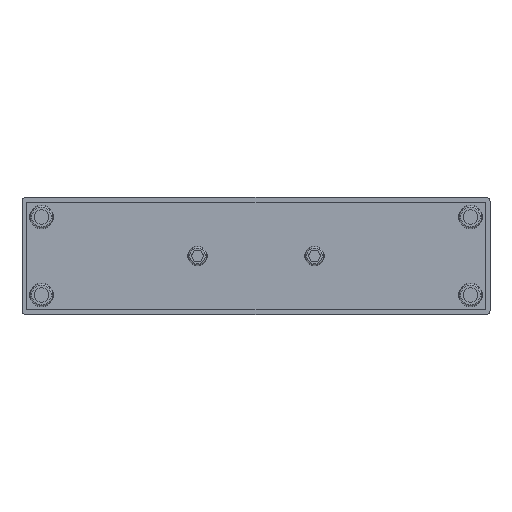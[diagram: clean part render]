
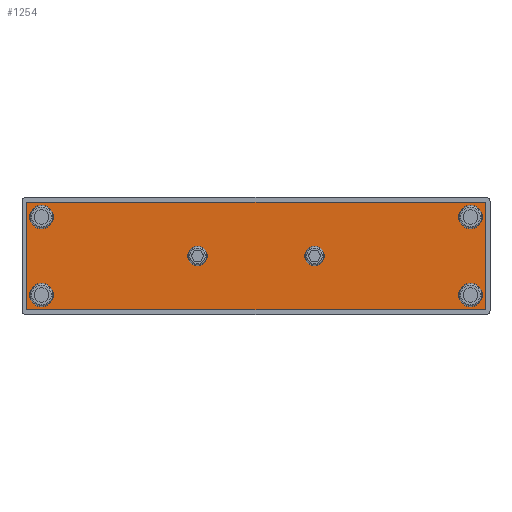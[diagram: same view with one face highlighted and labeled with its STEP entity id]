
A CAD part, top view. The second image highlights one B-rep face of the part: STEP entity #1254.
In plain terms, the highlighted planar face has unit normal (0, 0, 1).
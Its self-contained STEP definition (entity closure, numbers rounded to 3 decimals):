
#62 = EDGE_CURVE ( 'NONE', #2003, #481, #1686, .T. ) ;
#69 = CARTESIAN_POINT ( 'NONE',  ( 55., -10., 2. ) ) ;
#94 = DIRECTION ( 'NONE',  ( -1., 0., 0. ) ) ;
#101 = EDGE_CURVE ( 'NONE', #481, #1062, #228, .T. ) ;
#118 = DIRECTION ( 'NONE',  ( 0., 1., 0. ) ) ;
#131 = CARTESIAN_POINT ( 'NONE',  ( -58.8, -13.8, 2. ) ) ;
#137 = DIRECTION ( 'NONE',  ( -1., 0., 0. ) ) ;
#146 = AXIS2_PLACEMENT_3D ( 'NONE', #488, #663, #1906 ) ;
#152 = VERTEX_POINT ( 'NONE', #1334 ) ;
#168 = CIRCLE ( 'NONE', #1001, 3. ) ;
#171 = ORIENTED_EDGE ( 'NONE', *, *, #62, .T. ) ;
#176 = EDGE_CURVE ( 'NONE', #1062, #1197, #1527, .T. ) ;
#181 = EDGE_CURVE ( 'NONE', #1023, #1887, #1047, .T. ) ;
#200 = EDGE_CURVE ( 'NONE', #762, #1120, #636, .T. ) ;
#228 = LINE ( 'NONE', #2213, #1096 ) ;
#236 = CARTESIAN_POINT ( 'NONE',  ( 52., -10., 2. ) ) ;
#238 = FACE_BOUND ( 'NONE', #1046, .T. ) ;
#250 = DIRECTION ( 'NONE',  ( -1., 0., 0. ) ) ;
#257 = DIRECTION ( 'NONE',  ( 0., 0., 1. ) ) ;
#271 = EDGE_CURVE ( 'NONE', #667, #1257, #382, .T. ) ;
#305 = CARTESIAN_POINT ( 'NONE',  ( -17.5, 0., 2. ) ) ;
#312 = CARTESIAN_POINT ( 'NONE',  ( 52., 10., 2. ) ) ;
#318 = CIRCLE ( 'NONE', #1380, 3. ) ;
#323 = DIRECTION ( 'NONE',  ( 1., 0., 0. ) ) ;
#324 = CIRCLE ( 'NONE', #1016, 3. ) ;
#326 = CARTESIAN_POINT ( 'NONE',  ( -58., 10., 2. ) ) ;
#329 = AXIS2_PLACEMENT_3D ( 'NONE', #357, #1415, #1470 ) ;
#349 = DIRECTION ( 'NONE',  ( 0., 0., 1. ) ) ;
#357 = CARTESIAN_POINT ( 'NONE',  ( 15., 0., 2. ) ) ;
#366 = VECTOR ( 'NONE', #118, 1000. ) ;
#382 = CIRCLE ( 'NONE', #820, 3. ) ;
#410 = EDGE_CURVE ( 'NONE', #1120, #762, #2240, .T. ) ;
#412 = DIRECTION ( 'NONE',  ( 0., 0., 1. ) ) ;
#420 = CARTESIAN_POINT ( 'NONE',  ( -55., -10., 2. ) ) ;
#422 = CIRCLE ( 'NONE', #1135, 2.5 ) ;
#429 = DIRECTION ( 'NONE',  ( -1., 0., 0. ) ) ;
#457 = FACE_OUTER_BOUND ( 'NONE', #1222, .T. ) ;
#468 = CARTESIAN_POINT ( 'NONE',  ( 55., 10., 2. ) ) ;
#479 = EDGE_CURVE ( 'NONE', #1887, #1023, #324, .T. ) ;
#481 = VERTEX_POINT ( 'NONE', #1661 ) ;
#488 = CARTESIAN_POINT ( 'NONE',  ( 0., 0., 2. ) ) ;
#499 = ORIENTED_EDGE ( 'NONE', *, *, #1424, .F. ) ;
#507 = ORIENTED_EDGE ( 'NONE', *, *, #181, .F. ) ;
#576 = VECTOR ( 'NONE', #323, 1000. ) ;
#584 = CIRCLE ( 'NONE', #2107, 2.5 ) ;
#633 = DIRECTION ( 'NONE',  ( 0., 0., 1. ) ) ;
#636 = CIRCLE ( 'NONE', #2138, 3. ) ;
#663 = DIRECTION ( 'NONE',  ( 0., 0., -1. ) ) ;
#667 = VERTEX_POINT ( 'NONE', #715 ) ;
#700 = FACE_BOUND ( 'NONE', #1487, .T. ) ;
#715 = CARTESIAN_POINT ( 'NONE',  ( 58., 10., 2. ) ) ;
#755 = CIRCLE ( 'NONE', #952, 2.5 ) ;
#762 = VERTEX_POINT ( 'NONE', #838 ) ;
#790 = CARTESIAN_POINT ( 'NONE',  ( -52., -10., 2. ) ) ;
#795 = CARTESIAN_POINT ( 'NONE',  ( -55., 10., 2. ) ) ;
#820 = AXIS2_PLACEMENT_3D ( 'NONE', #468, #1706, #1531 ) ;
#822 = CARTESIAN_POINT ( 'NONE',  ( -58.8, 13.8, 2. ) ) ;
#838 = CARTESIAN_POINT ( 'NONE',  ( -58., -10., 2. ) ) ;
#858 = CARTESIAN_POINT ( 'NONE',  ( 15., 0., 2. ) ) ;
#875 = EDGE_CURVE ( 'NONE', #1787, #1224, #1423, .T. ) ;
#921 = FACE_BOUND ( 'NONE', #1765, .T. ) ;
#952 = AXIS2_PLACEMENT_3D ( 'NONE', #858, #2084, #1038 ) ;
#973 = DIRECTION ( 'NONE',  ( -1., 0., 0. ) ) ;
#996 = CARTESIAN_POINT ( 'NONE',  ( 17.5, 0., 2. ) ) ;
#1000 = CARTESIAN_POINT ( 'NONE',  ( -55., 10., 2. ) ) ;
#1001 = AXIS2_PLACEMENT_3D ( 'NONE', #795, #2023, #973 ) ;
#1010 = ORIENTED_EDGE ( 'NONE', *, *, #1941, .F. ) ;
#1016 = AXIS2_PLACEMENT_3D ( 'NONE', #69, #412, #250 ) ;
#1023 = VERTEX_POINT ( 'NONE', #1514 ) ;
#1038 = DIRECTION ( 'NONE',  ( -1., 0., 0. ) ) ;
#1046 = EDGE_LOOP ( 'NONE', ( #1010, #1435 ) ) ;
#1047 = CIRCLE ( 'NONE', #2033, 3. ) ;
#1062 = VERTEX_POINT ( 'NONE', #131 ) ;
#1071 = ORIENTED_EDGE ( 'NONE', *, *, #200, .F. ) ;
#1096 = VECTOR ( 'NONE', #1157, 1000. ) ;
#1112 = ORIENTED_EDGE ( 'NONE', *, *, #1534, .T. ) ;
#1120 = VERTEX_POINT ( 'NONE', #790 ) ;
#1129 = EDGE_CURVE ( 'NONE', #1604, #152, #168, .T. ) ;
#1130 = DIRECTION ( 'NONE',  ( 0., 0., 1. ) ) ;
#1135 = AXIS2_PLACEMENT_3D ( 'NONE', #1694, #633, #1876 ) ;
#1157 = DIRECTION ( 'NONE',  ( 0., -1., 0. ) ) ;
#1175 = DIRECTION ( 'NONE',  ( -1., 0., 0. ) ) ;
#1197 = VERTEX_POINT ( 'NONE', #2030 ) ;
#1210 = EDGE_LOOP ( 'NONE', ( #1071, #2058 ) ) ;
#1213 = VECTOR ( 'NONE', #137, 1000. ) ;
#1222 = EDGE_LOOP ( 'NONE', ( #1112, #171, #2076, #1299 ) ) ;
#1224 = VERTEX_POINT ( 'NONE', #996 ) ;
#1254 = ADVANCED_FACE ( 'NONE', ( #1870, #238, #700, #2194, #1396, #921, #457 ), #1536, .F. ) ;
#1257 = VERTEX_POINT ( 'NONE', #312 ) ;
#1286 = ORIENTED_EDGE ( 'NONE', *, *, #271, .F. ) ;
#1299 = ORIENTED_EDGE ( 'NONE', *, *, #176, .T. ) ;
#1300 = LINE ( 'NONE', #2197, #366 ) ;
#1334 = CARTESIAN_POINT ( 'NONE',  ( -52., 10., 2. ) ) ;
#1344 = EDGE_CURVE ( 'NONE', #1224, #1787, #755, .T. ) ;
#1380 = AXIS2_PLACEMENT_3D ( 'NONE', #1000, #2215, #1175 ) ;
#1394 = ORIENTED_EDGE ( 'NONE', *, *, #875, .F. ) ;
#1396 = FACE_BOUND ( 'NONE', #1210, .T. ) ;
#1406 = CARTESIAN_POINT ( 'NONE',  ( 55., 10., 2. ) ) ;
#1415 = DIRECTION ( 'NONE',  ( 0., 0., 1. ) ) ;
#1423 = CIRCLE ( 'NONE', #329, 2.5 ) ;
#1424 = EDGE_CURVE ( 'NONE', #1257, #667, #2049, .T. ) ;
#1435 = ORIENTED_EDGE ( 'NONE', *, *, #1548, .F. ) ;
#1470 = DIRECTION ( 'NONE',  ( -1., 0., 0. ) ) ;
#1487 = EDGE_LOOP ( 'NONE', ( #1761, #507 ) ) ;
#1490 = CARTESIAN_POINT ( 'NONE',  ( -12.5, 0., 2. ) ) ;
#1514 = CARTESIAN_POINT ( 'NONE',  ( 58., -10., 2. ) ) ;
#1516 = CARTESIAN_POINT ( 'NONE',  ( 58.8, 13.8, 2. ) ) ;
#1527 = LINE ( 'NONE', #1562, #576 ) ;
#1531 = DIRECTION ( 'NONE',  ( -1., 0., 0. ) ) ;
#1534 = EDGE_CURVE ( 'NONE', #1197, #2003, #1300, .T. ) ;
#1536 = PLANE ( 'NONE',  #146 ) ;
#1548 = EDGE_CURVE ( 'NONE', #1936, #2086, #422, .T. ) ;
#1550 = DIRECTION ( 'NONE',  ( 0., 0., 1. ) ) ;
#1562 = CARTESIAN_POINT ( 'NONE',  ( -58.8, -13.8, 2. ) ) ;
#1587 = DIRECTION ( 'NONE',  ( -1., 0., 0. ) ) ;
#1588 = EDGE_CURVE ( 'NONE', #152, #1604, #318, .T. ) ;
#1604 = VERTEX_POINT ( 'NONE', #326 ) ;
#1612 = ORIENTED_EDGE ( 'NONE', *, *, #1344, .F. ) ;
#1661 = CARTESIAN_POINT ( 'NONE',  ( -58.8, 13.8, 2. ) ) ;
#1663 = AXIS2_PLACEMENT_3D ( 'NONE', #1406, #349, #1587 ) ;
#1668 = DIRECTION ( 'NONE',  ( 0., 0., 1. ) ) ;
#1682 = ORIENTED_EDGE ( 'NONE', *, *, #1588, .F. ) ;
#1686 = LINE ( 'NONE', #822, #1213 ) ;
#1694 = CARTESIAN_POINT ( 'NONE',  ( -15., 0., 2. ) ) ;
#1706 = DIRECTION ( 'NONE',  ( 0., 0., 1. ) ) ;
#1720 = CARTESIAN_POINT ( 'NONE',  ( -55., -10., 2. ) ) ;
#1761 = ORIENTED_EDGE ( 'NONE', *, *, #479, .F. ) ;
#1765 = EDGE_LOOP ( 'NONE', ( #1829, #1682 ) ) ;
#1785 = CARTESIAN_POINT ( 'NONE',  ( 12.5, 0., 2. ) ) ;
#1787 = VERTEX_POINT ( 'NONE', #1785 ) ;
#1829 = ORIENTED_EDGE ( 'NONE', *, *, #1129, .F. ) ;
#1866 = DIRECTION ( 'NONE',  ( -1., 0., 0. ) ) ;
#1870 = FACE_BOUND ( 'NONE', #1952, .T. ) ;
#1876 = DIRECTION ( 'NONE',  ( -1., 0., 0. ) ) ;
#1887 = VERTEX_POINT ( 'NONE', #236 ) ;
#1905 = CARTESIAN_POINT ( 'NONE',  ( 55., -10., 2. ) ) ;
#1906 = DIRECTION ( 'NONE',  ( -1., 0., 0. ) ) ;
#1936 = VERTEX_POINT ( 'NONE', #1490 ) ;
#1941 = EDGE_CURVE ( 'NONE', #2086, #1936, #584, .T. ) ;
#1952 = EDGE_LOOP ( 'NONE', ( #1394, #1612 ) ) ;
#2003 = VERTEX_POINT ( 'NONE', #1516 ) ;
#2023 = DIRECTION ( 'NONE',  ( 0., 0., 1. ) ) ;
#2030 = CARTESIAN_POINT ( 'NONE',  ( 58.8, -13.8, 2. ) ) ;
#2033 = AXIS2_PLACEMENT_3D ( 'NONE', #1905, #257, #1866 ) ;
#2049 = CIRCLE ( 'NONE', #1663, 3. ) ;
#2058 = ORIENTED_EDGE ( 'NONE', *, *, #410, .F. ) ;
#2062 = DIRECTION ( 'NONE',  ( -1., 0., 0. ) ) ;
#2076 = ORIENTED_EDGE ( 'NONE', *, *, #101, .T. ) ;
#2084 = DIRECTION ( 'NONE',  ( 0., 0., 1. ) ) ;
#2086 = VERTEX_POINT ( 'NONE', #305 ) ;
#2107 = AXIS2_PLACEMENT_3D ( 'NONE', #2181, #1130, #94 ) ;
#2138 = AXIS2_PLACEMENT_3D ( 'NONE', #1720, #1550, #2062 ) ;
#2181 = CARTESIAN_POINT ( 'NONE',  ( -15., 0., 2. ) ) ;
#2194 = FACE_BOUND ( 'NONE', #2195, .T. ) ;
#2195 = EDGE_LOOP ( 'NONE', ( #499, #1286 ) ) ;
#2197 = CARTESIAN_POINT ( 'NONE',  ( 58.8, -13.8, 2. ) ) ;
#2213 = CARTESIAN_POINT ( 'NONE',  ( -58.8, -13.8, 2. ) ) ;
#2215 = DIRECTION ( 'NONE',  ( 0., 0., 1. ) ) ;
#2220 = AXIS2_PLACEMENT_3D ( 'NONE', #420, #1668, #429 ) ;
#2240 = CIRCLE ( 'NONE', #2220, 3. ) ;
